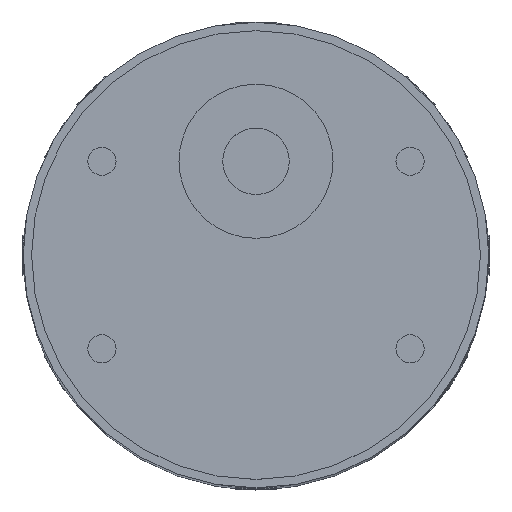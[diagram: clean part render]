
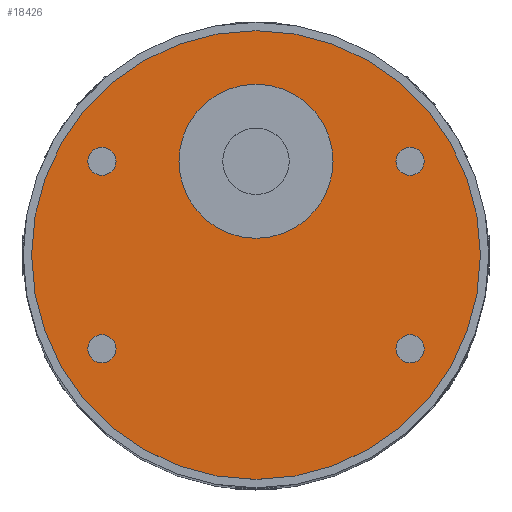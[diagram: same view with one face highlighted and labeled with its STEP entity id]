
A CAD part, top view. The second image highlights one B-rep face of the part: STEP entity #18426.
In plain terms, the highlighted planar face has unit normal (0, 0, 1).
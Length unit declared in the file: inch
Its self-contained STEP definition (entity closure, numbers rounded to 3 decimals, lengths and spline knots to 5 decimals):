
#239 = DIRECTION ( 'NONE',  ( 1., 0., 0. ) ) ;
#273 = EDGE_LOOP ( 'NONE', ( #1582 ) ) ;
#350 = CARTESIAN_POINT ( 'NONE',  ( -0.90551, 0.55118, 5.88583 ) ) ;
#506 = CARTESIAN_POINT ( 'NONE',  ( 0., 1.3189, 5.88583 ) ) ;
#573 = DIRECTION ( 'NONE',  ( 0., 0., 1. ) ) ;
#1376 = EDGE_CURVE ( 'NONE', #5255, #5255, #17703, .T. ) ;
#1582 = ORIENTED_EDGE ( 'NONE', *, *, #21615, .F. ) ;
#1631 = CARTESIAN_POINT ( 'NONE',  ( 0., 0., 5.88583 ) ) ;
#1957 = EDGE_LOOP ( 'NONE', ( #12843 ) ) ;
#1989 = FACE_BOUND ( 'NONE', #17108, .T. ) ;
#2099 = PLANE ( 'NONE',  #10736 ) ;
#2872 = EDGE_CURVE ( 'NONE', #10814, #10814, #13743, .T. ) ;
#3447 = EDGE_CURVE ( 'NONE', #9215, #9215, #14848, .T. ) ;
#3607 = CARTESIAN_POINT ( 'NONE',  ( 0.90551, -0.55118, 5.88583 ) ) ;
#3692 = CARTESIAN_POINT ( 'NONE',  ( 0.90551, 0.55118, 5.88583 ) ) ;
#3869 = CARTESIAN_POINT ( 'NONE',  ( 0., 0.55118, 5.88583 ) ) ;
#4632 = ORIENTED_EDGE ( 'NONE', *, *, #1376, .F. ) ;
#5255 = VERTEX_POINT ( 'NONE', #7410 ) ;
#5329 = EDGE_CURVE ( 'NONE', #15145, #15145, #21508, .T. ) ;
#5395 = DIRECTION ( 'NONE',  ( 0., 0., 1. ) ) ;
#5682 = CARTESIAN_POINT ( 'NONE',  ( -0.90551, -0.55118, 5.88583 ) ) ;
#5894 = EDGE_LOOP ( 'NONE', ( #14289 ) ) ;
#6349 = EDGE_LOOP ( 'NONE', ( #4632 ) ) ;
#6570 = ORIENTED_EDGE ( 'NONE', *, *, #3447, .F. ) ;
#6867 = AXIS2_PLACEMENT_3D ( 'NONE', #3869, #17085, #239 ) ;
#7045 = CARTESIAN_POINT ( 'NONE',  ( -0.82283, 0.55118, 5.88583 ) ) ;
#7373 = VERTEX_POINT ( 'NONE', #8964 ) ;
#7410 = CARTESIAN_POINT ( 'NONE',  ( -0.82283, -0.55118, 5.88583 ) ) ;
#8964 = CARTESIAN_POINT ( 'NONE',  ( 0., 1.3189, 5.88583 ) ) ;
#9215 = VERTEX_POINT ( 'NONE', #16150 ) ;
#10260 = AXIS2_PLACEMENT_3D ( 'NONE', #3607, #10540, #15862 ) ;
#10511 = FACE_BOUND ( 'NONE', #6349, .T. ) ;
#10540 = DIRECTION ( 'NONE',  ( 0., 0., 1. ) ) ;
#10736 = AXIS2_PLACEMENT_3D ( 'NONE', #506, #5395, #17443 ) ;
#10814 = VERTEX_POINT ( 'NONE', #17758 ) ;
#10999 = CIRCLE ( 'NONE', #14255, 1.3189 ) ;
#11128 = DIRECTION ( 'NONE',  ( 0., 0., 1. ) ) ;
#11845 = CARTESIAN_POINT ( 'NONE',  ( 0.98819, -0.55118, 5.88583 ) ) ;
#12711 = DIRECTION ( 'NONE',  ( 1., 0., 0. ) ) ;
#12843 = ORIENTED_EDGE ( 'NONE', *, *, #2872, .F. ) ;
#12934 = EDGE_CURVE ( 'NONE', #7373, #7373, #10999, .T. ) ;
#13743 = CIRCLE ( 'NONE', #6867, 0.45276 ) ;
#13773 = DIRECTION ( 'NONE',  ( 0., 0., 1. ) ) ;
#14255 = AXIS2_PLACEMENT_3D ( 'NONE', #1631, #13773, #18780 ) ;
#14289 = ORIENTED_EDGE ( 'NONE', *, *, #12934, .T. ) ;
#14356 = FACE_BOUND ( 'NONE', #273, .T. ) ;
#14848 = CIRCLE ( 'NONE', #18494, 0.08268 ) ;
#15145 = VERTEX_POINT ( 'NONE', #11845 ) ;
#15728 = DIRECTION ( 'NONE',  ( 0., 0., 1. ) ) ;
#15842 = DIRECTION ( 'NONE',  ( 1., 0., 0. ) ) ;
#15862 = DIRECTION ( 'NONE',  ( 1., 0., 0. ) ) ;
#16150 = CARTESIAN_POINT ( 'NONE',  ( 0.98819, 0.55118, 5.88583 ) ) ;
#16554 = CIRCLE ( 'NONE', #19102, 0.08268 ) ;
#17085 = DIRECTION ( 'NONE',  ( 0., 0., 1. ) ) ;
#17108 = EDGE_LOOP ( 'NONE', ( #6570 ) ) ;
#17443 = DIRECTION ( 'NONE',  ( 0., 1., 0. ) ) ;
#17659 = ORIENTED_EDGE ( 'NONE', *, *, #5329, .F. ) ;
#17703 = CIRCLE ( 'NONE', #18418, 0.08268 ) ;
#17758 = CARTESIAN_POINT ( 'NONE',  ( 0.45276, 0.55118, 5.88583 ) ) ;
#17892 = FACE_OUTER_BOUND ( 'NONE', #5894, .T. ) ;
#17941 = VERTEX_POINT ( 'NONE', #7045 ) ;
#18067 = DIRECTION ( 'NONE',  ( 1., 0., 0. ) ) ;
#18418 = AXIS2_PLACEMENT_3D ( 'NONE', #5682, #11128, #18067 ) ;
#18426 = ADVANCED_FACE ( 'NONE', ( #21302, #14356, #1989, #20969, #10511, #17892 ), #2099, .T. ) ;
#18494 = AXIS2_PLACEMENT_3D ( 'NONE', #3692, #15728, #15842 ) ;
#18780 = DIRECTION ( 'NONE',  ( 0., 1., 0. ) ) ;
#19102 = AXIS2_PLACEMENT_3D ( 'NONE', #350, #573, #12711 ) ;
#20969 = FACE_BOUND ( 'NONE', #21569, .T. ) ;
#21302 = FACE_BOUND ( 'NONE', #1957, .T. ) ;
#21508 = CIRCLE ( 'NONE', #10260, 0.08268 ) ;
#21569 = EDGE_LOOP ( 'NONE', ( #17659 ) ) ;
#21615 = EDGE_CURVE ( 'NONE', #17941, #17941, #16554, .T. ) ;
